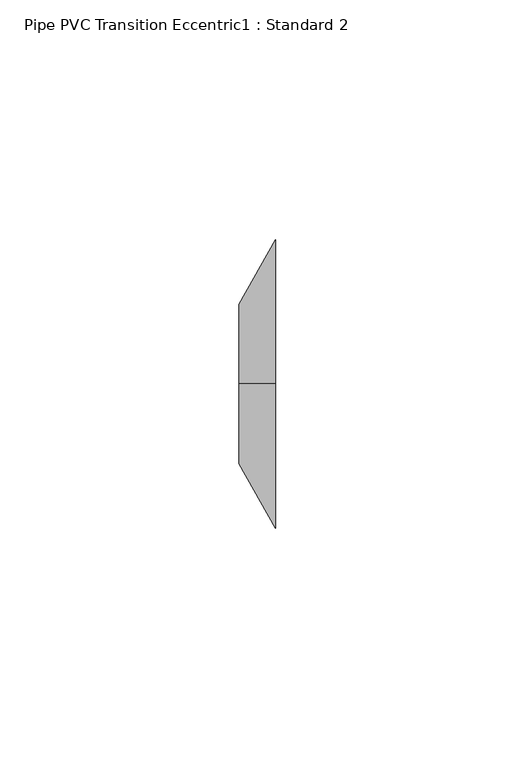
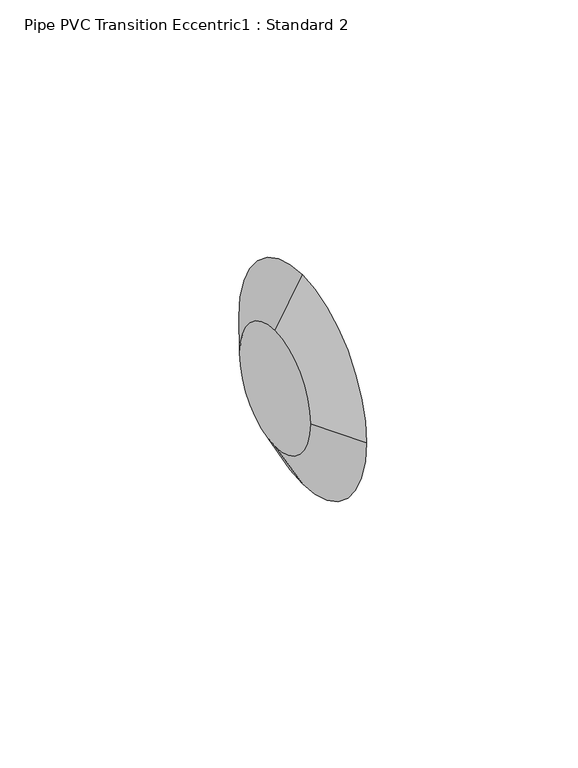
"""IFC4 building model written with IfcOpenShell, lengths in millimetres: pipe fitting geometry, Pipe PVC Transition Eccentric1 : Standard 2."""

from ifc_helpers import new_model, si_unit, frame, origin, place, context, project, spatial, polyline, circle_curve, source, transform, mapped, element, save
from ifc_brep_helpers import plane_surface, revolved_surface, advanced_brep


def pipe_pvc_transition_eccentric1_standard_2_8e0969e4(model_context):
    return source(origin(), model_context, "Body", "AdvancedBrep", [
        advanced_brep(
        [(7.540625, -92.837, 30.1625), (7.540625, -122.9995, 0.0), (7.540625, -92.837, -30.1625), (7.540625, -62.6745, 0.0), (0.0, -92.837, 16.7005), (0.0, -76.1365, 0.0), (0.0, -92.837, -16.7005), (0.0, -109.5375, 0.0)],
        [
            (0, 1, circle_curve(frame((7.540625, -92.837, 0.0), z_axis=(1.0, 0.0, -1.0838162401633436e-12), x_axis=(1.083813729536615e-12, 0.0, 1.0)), 30.1625)),
            (1, 2, circle_curve(frame((7.540625, -92.837, 0.0), z_axis=(1.0, 0.0, -1.0568904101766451e-12), x_axis=(0.0, -1.0, 0.0)), 30.1625)),
            (2, 3, circle_curve(frame((7.540625, -92.837, 0.0), z_axis=(1.0, 0.0, -1.7371347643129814e-12), x_axis=(-1.737130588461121e-12, 0.0, -1.0)), 30.1625)),
            (3, 0, circle_curve(frame((7.540625, -92.837, 0.0), z_axis=(1.0, 0.0, 0.0), x_axis=(0.0, 1.0, 0.0)), 30.1625)),
            (4, 5, circle_curve(frame((0.0, -92.837, 0.0), z_axis=(-1.0, 0.0, 0.0), x_axis=(0.0, 1.0, 0.0)), 16.7005)),
            (5, 6, circle_curve(frame((0.0, -92.837, 0.0), z_axis=(-1.0, 0.0, 1.7371347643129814e-12), x_axis=(-1.737130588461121e-12, 0.0, -1.0)), 16.7005)),
            (6, 7, circle_curve(frame((0.0, -92.837, 0.0), z_axis=(-1.0, 0.0, 1.0568904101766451e-12), x_axis=(0.0, -1.0, 0.0)), 16.7005)),
            (7, 4, circle_curve(frame((0.0, -92.837, 0.0), z_axis=(-1.0, 0.0, 1.0838162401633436e-12), x_axis=(1.083813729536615e-12, 0.0, 1.0)), 16.7005)),
            (7, 1),
            (0, 4),
            (6, 2),
            (5, 3),
        ],
        [
            plane_surface(frame((7.540625, -92.837, 0.0), z_axis=(1.0, 0.0, 0.0), x_axis=(0.0, -1.0, 0.0))),
            plane_surface(frame((0.0, -92.837, 0.0), z_axis=(-1.0, 0.0, 0.0), x_axis=(0.0, -1.0, 0.0))),
            revolved_surface(polyline([(-1.8101076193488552e-11, -109.53750001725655, 0.0), (7.540624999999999, -122.9995, 0.0)]), (-9.3546433, -92.837, 0.0), (1.0, 0.0, -1.0838162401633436e-12)),
            revolved_surface(polyline([(-1.765165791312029e-11, -92.837, -16.700500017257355), (7.540624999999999, -92.837, -30.1625)]), (-9.3546433, -92.837, 0.0), (1.0, 0.0, -1.0568904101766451e-12)),
            revolved_surface(polyline([(0.0, -76.13649998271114, 0.0), (7.5406250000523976, -62.67449999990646, 0.0)]), (-9.3546433, -92.837, 0.0), (1.0, 0.0, -1.7371347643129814e-12)),
            revolved_surface(polyline([(0.0, -92.837, 16.700500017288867), (7.540624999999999, -92.837, 30.1625)]), (-9.3546433, -92.837, 0.0), (1.0, 0.0, 0.0)),
        ],
        [
            (0, [[1, 2, 3, 4]]),
            (1, [[5, 6, 7, 8]]),
            (2, [[-8, 9, -1, 10]]),
            (3, [[-7, 11, -2, -9]]),
            (4, [[-6, 12, -3, -11]]),
            (5, [[-5, -10, -4, -12]]),
        ],
    ),
        advanced_brep(
        [(7.540625, -92.837, 30.1625), (7.540625, -122.9995, 0.0), (7.540625, -92.837, -30.1625), (7.540625, -62.6745, 0.0), (0.0, -92.837, 16.7005), (0.0, -76.1365, 0.0), (0.0, -92.837, -16.7005), (0.0, -109.5375, 0.0)],
        [
            (0, 1, circle_curve(frame((7.540625, -92.837, 0.0), z_axis=(1.0, 0.0, 0.0), x_axis=(0.0, 0.0, 1.0)), 30.1625)),
            (1, 2, circle_curve(frame((7.540625, -92.837, 0.0), z_axis=(1.0, 0.0, 0.0), x_axis=(0.0, -1.0, 0.0)), 30.1625)),
            (2, 3, circle_curve(frame((7.540625, -92.837, 0.0), z_axis=(1.0, 0.0, 0.0), x_axis=(0.0, 0.0, -1.0)), 30.1625)),
            (3, 0, circle_curve(frame((7.540625, -92.837, 0.0), z_axis=(1.0, 0.0, 0.0), x_axis=(0.0, 1.0, 0.0)), 30.1625)),
            (4, 5, circle_curve(frame((0.0, -92.837, 0.0), z_axis=(-1.0, 0.0, 0.0), x_axis=(0.0, 1.0, 0.0)), 16.7005)),
            (5, 6, circle_curve(frame((0.0, -92.837, 0.0), z_axis=(-1.0, 0.0, 0.0), x_axis=(0.0, 0.0, -1.0)), 16.7005)),
            (6, 7, circle_curve(frame((0.0, -92.837, 0.0), z_axis=(-1.0, 0.0, 0.0), x_axis=(0.0, -1.0, 0.0)), 16.7005)),
            (7, 4, circle_curve(frame((0.0, -92.837, 0.0), z_axis=(-1.0, 0.0, 0.0), x_axis=(0.0, 0.0, 1.0)), 16.7005)),
            (7, 1),
            (0, 4),
            (6, 2),
            (5, 3),
        ],
        [
            plane_surface(frame((7.540625, -92.837, 0.0), z_axis=(1.0, 0.0, 0.0), x_axis=(0.0, -1.0, 0.0))),
            plane_surface(frame((0.0, -92.837, 0.0), z_axis=(-1.0, 0.0, 0.0), x_axis=(0.0, -1.0, 0.0))),
            revolved_surface(polyline([(0.0, -109.53750001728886, 0.0), (7.540624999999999, -122.9995, 0.0)]), (-9.3546433, -92.837, 0.0), (1.0, 0.0, 0.0)),
            revolved_surface(polyline([(0.0, -92.837, -16.700500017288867), (7.540624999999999, -92.837, -30.1625)]), (-9.3546433, -92.837, 0.0), (1.0, 0.0, 0.0)),
            revolved_surface(polyline([(0.0, -76.13649998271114, 0.0), (7.540624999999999, -62.6745, 0.0)]), (-9.3546433, -92.837, 0.0), (1.0, 0.0, 0.0)),
            revolved_surface(polyline([(0.0, -92.837, 16.700500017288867), (7.540624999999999, -92.837, 30.1625)]), (-9.3546433, -92.837, 0.0), (1.0, 0.0, 0.0)),
        ],
        [
            (0, [[1, 2, 3, 4]]),
            (1, [[5, 6, 7, 8]]),
            (2, [[-8, 9, -1, 10]]),
            (3, [[-7, 11, -2, -9]]),
            (4, [[-6, 12, -3, -11]]),
            (5, [[-5, -10, -4, -12]]),
        ],
    ),
    ])


if __name__ == "__main__":
    model = new_model("IFC4")
    model_context = context("Model", 3, world=origin())
    ifc_project = project(units=[si_unit("LENGTHUNIT", "METRE", prefix="MILLI")], contexts=[model_context])
    site = spatial("IfcSite", under=ifc_project)
    building = spatial("IfcBuilding", under=site)
    placement = place(None, origin())
    pipe_pvc_transition_eccentric1_standard_2_shape = pipe_pvc_transition_eccentric1_standard_2_8e0969e4(model_context)
    element("IfcPipeFitting", 1, ObjectType="Pipe PVC Transition Eccentric1 : Standard 2", at=placement, inside=building, context=model_context, shape_type="MappedRepresentation", body=[
        mapped(pipe_pvc_transition_eccentric1_standard_2_shape, transform((0.0, 0.0, 0.0), x_axis=(1.0, 0.0, 0.0), y_axis=(0.0, 1.0, 0.0), z_axis=(0.0, 0.0, 1.0))),
    ])
    save(model, "model.ifc")
